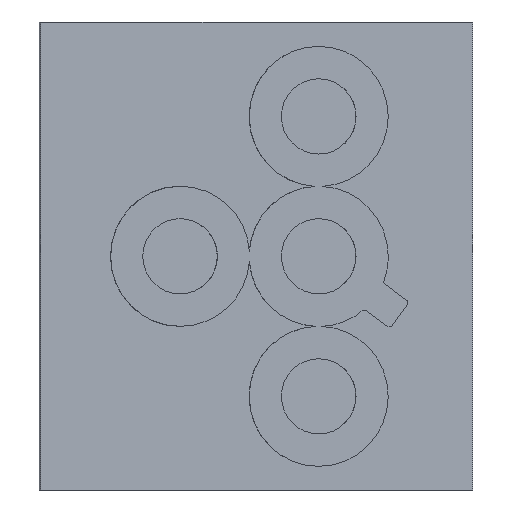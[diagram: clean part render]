
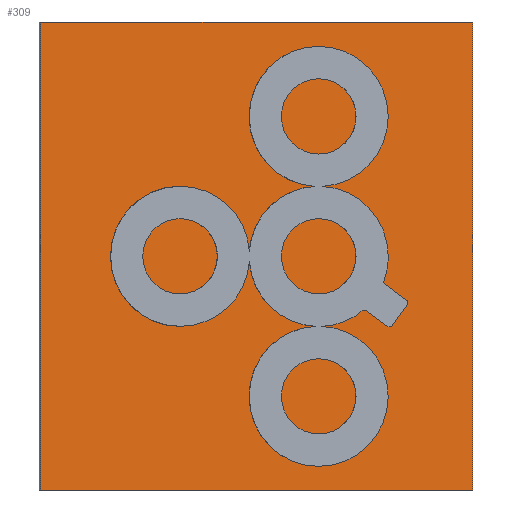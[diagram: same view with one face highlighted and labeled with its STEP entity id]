
A CAD part, front view. The second image highlights one B-rep face of the part: STEP entity #309.
In plain terms, the highlighted planar face has unit normal (0.129, -0.992, 0).
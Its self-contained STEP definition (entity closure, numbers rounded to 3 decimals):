
#309=ADVANCED_FACE('',(#588),#4860,.T.);
#588=FACE_OUTER_BOUND('',#875,.T.);
#875=EDGE_LOOP('',(#2519,#2520,#2521,#2522));
#2519=ORIENTED_EDGE('',*,*,#3350,.F.);
#2520=ORIENTED_EDGE('',*,*,#3347,.F.);
#2521=ORIENTED_EDGE('',*,*,#3344,.F.);
#2522=ORIENTED_EDGE('',*,*,#3340,.F.);
#3340=EDGE_CURVE('',#4720,#4721,#3736,.T.);
#3344=EDGE_CURVE('',#4721,#4724,#3740,.T.);
#3347=EDGE_CURVE('',#4724,#4726,#3743,.T.);
#3350=EDGE_CURVE('',#4726,#4720,#3746,.T.);
#3736=B_SPLINE_CURVE_WITH_KNOTS('',1,(#8764,#8765),.UNSPECIFIED.,.F.,.F.,
(2,2),(-198.462,-150.196),.UNSPECIFIED.);
#3740=B_SPLINE_CURVE_WITH_KNOTS('',1,(#8772,#8773),.UNSPECIFIED.,.F.,.F.,
(2,2),(-150.196,-99.231),.UNSPECIFIED.);
#3743=B_SPLINE_CURVE_WITH_KNOTS('',1,(#8778,#8779),.UNSPECIFIED.,.F.,.F.,
(2,2),(-99.231,-50.965),.UNSPECIFIED.);
#3746=B_SPLINE_CURVE_WITH_KNOTS('',1,(#8784,#8785),.UNSPECIFIED.,.F.,.F.,
(2,2),(-50.965,0.),.UNSPECIFIED.);
#4720=VERTEX_POINT('',#8756);
#4721=VERTEX_POINT('',#8757);
#4724=VERTEX_POINT('',#8760);
#4726=VERTEX_POINT('',#8762);
#4860=PLANE('',#5157);
#5157=AXIS2_PLACEMENT_3D('',#8754,#5295,$);
#5295=DIRECTION('',(0.129,-0.992,0.));
#8754=CARTESIAN_POINT('',(44.746,-246.404,19.475));
#8756=CARTESIAN_POINT('',(6.985,-251.297,19.475));
#8757=CARTESIAN_POINT('',(6.985,-251.297,60.397));
#8760=CARTESIAN_POINT('',(44.746,-246.404,60.397));
#8762=CARTESIAN_POINT('',(44.746,-246.404,19.475));
#8764=CARTESIAN_POINT('',(6.985,-251.297,19.475));
#8765=CARTESIAN_POINT('',(6.985,-251.297,60.397));
#8772=CARTESIAN_POINT('',(6.985,-251.297,60.397));
#8773=CARTESIAN_POINT('',(44.746,-246.404,60.397));
#8778=CARTESIAN_POINT('',(44.746,-246.404,60.397));
#8779=CARTESIAN_POINT('',(44.746,-246.404,19.475));
#8784=CARTESIAN_POINT('',(44.746,-246.404,19.475));
#8785=CARTESIAN_POINT('',(6.985,-251.297,19.475));
